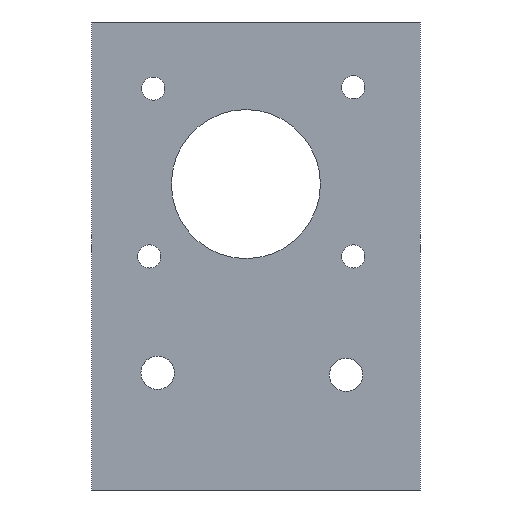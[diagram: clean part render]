
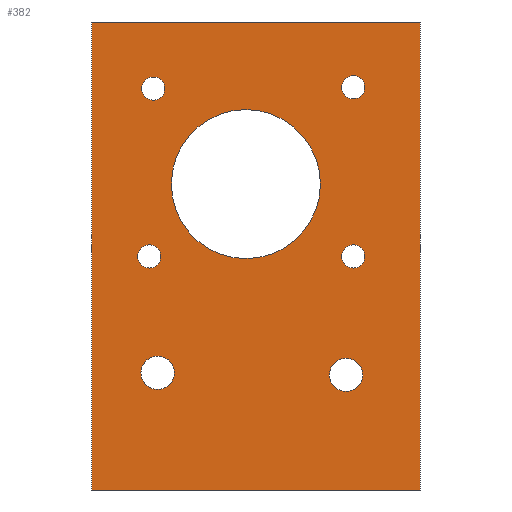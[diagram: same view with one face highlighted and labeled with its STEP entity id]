
A CAD part, front view. The second image highlights one B-rep face of the part: STEP entity #382.
In plain terms, the highlighted free-form (B-spline) face has degree [1, 1] with [2, 2] control points.
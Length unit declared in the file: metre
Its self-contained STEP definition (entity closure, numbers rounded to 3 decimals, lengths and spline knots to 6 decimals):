
#14=LINE('',#631,#26);
#18=LINE('',#642,#30);
#21=LINE('',#651,#33);
#23=LINE('',#717,#35);
#26=VECTOR('',#457,1.);
#30=VECTOR('',#461,1.);
#33=VECTOR('',#464,1.);
#35=VECTOR('',#490,1.);
#40=B_SPLINE_SURFACE_WITH_KNOTS('',1,1,((#728,#729),(#730,#731)),
 .PLANE_SURF.,.F.,.F.,.F.,(2,2),(2,2),(0.,1.),(0.,1.),.UNSPECIFIED.);
#128=ORIENTED_EDGE('',*,*,#194,.F.);
#129=ORIENTED_EDGE('',*,*,#198,.T.);
#130=ORIENTED_EDGE('',*,*,#201,.F.);
#131=ORIENTED_EDGE('',*,*,#215,.F.);
#132=ORIENTED_EDGE('',*,*,#168,.F.);
#133=ORIENTED_EDGE('',*,*,#212,.F.);
#134=ORIENTED_EDGE('',*,*,#172,.F.);
#135=ORIENTED_EDGE('',*,*,#210,.F.);
#136=ORIENTED_EDGE('',*,*,#176,.F.);
#137=ORIENTED_EDGE('',*,*,#208,.F.);
#138=ORIENTED_EDGE('',*,*,#180,.F.);
#139=ORIENTED_EDGE('',*,*,#206,.F.);
#140=ORIENTED_EDGE('',*,*,#204,.T.);
#141=ORIENTED_EDGE('',*,*,#184,.T.);
#142=ORIENTED_EDGE('',*,*,#188,.F.);
#143=ORIENTED_EDGE('',*,*,#202,.F.);
#144=ORIENTED_EDGE('',*,*,#164,.F.);
#145=ORIENTED_EDGE('',*,*,#216,.F.);
#164=EDGE_CURVE('',#218,#219,#254,.T.);
#168=EDGE_CURVE('',#222,#223,#256,.T.);
#172=EDGE_CURVE('',#226,#227,#258,.T.);
#176=EDGE_CURVE('',#230,#231,#260,.T.);
#180=EDGE_CURVE('',#234,#235,#262,.T.);
#184=EDGE_CURVE('',#238,#239,#264,.T.);
#188=EDGE_CURVE('',#242,#243,#266,.T.);
#194=EDGE_CURVE('',#248,#249,#14,.T.);
#198=EDGE_CURVE('',#248,#251,#18,.T.);
#201=EDGE_CURVE('',#253,#251,#21,.T.);
#202=EDGE_CURVE('',#243,#242,#268,.T.);
#204=EDGE_CURVE('',#239,#238,#270,.T.);
#206=EDGE_CURVE('',#235,#234,#272,.T.);
#208=EDGE_CURVE('',#231,#230,#274,.T.);
#210=EDGE_CURVE('',#227,#226,#276,.T.);
#212=EDGE_CURVE('',#223,#222,#278,.T.);
#215=EDGE_CURVE('',#249,#253,#23,.T.);
#216=EDGE_CURVE('',#219,#218,#280,.T.);
#218=VERTEX_POINT('',#505);
#219=VERTEX_POINT('',#506);
#222=VERTEX_POINT('',#523);
#223=VERTEX_POINT('',#524);
#226=VERTEX_POINT('',#541);
#227=VERTEX_POINT('',#542);
#230=VERTEX_POINT('',#559);
#231=VERTEX_POINT('',#560);
#234=VERTEX_POINT('',#577);
#235=VERTEX_POINT('',#578);
#238=VERTEX_POINT('',#595);
#239=VERTEX_POINT('',#596);
#242=VERTEX_POINT('',#613);
#243=VERTEX_POINT('',#614);
#248=VERTEX_POINT('',#630);
#249=VERTEX_POINT('',#632);
#251=VERTEX_POINT('',#641);
#253=VERTEX_POINT('',#650);
#254=CIRCLE('',#397,0.002533);
#256=CIRCLE('',#399,0.001759);
#258=CIRCLE('',#401,0.01133);
#260=CIRCLE('',#403,0.001759);
#262=CIRCLE('',#405,0.001759);
#264=CIRCLE('',#407,0.001759);
#266=CIRCLE('',#409,0.002527);
#268=CIRCLE('',#411,0.002527);
#270=CIRCLE('',#413,0.001759);
#272=CIRCLE('',#415,0.001759);
#274=CIRCLE('',#417,0.001759);
#276=CIRCLE('',#419,0.01133);
#278=CIRCLE('',#421,0.001759);
#280=CIRCLE('',#423,0.002533);
#300=EDGE_LOOP('',(#128,#129,#130,#131));
#301=EDGE_LOOP('',(#132,#133));
#302=EDGE_LOOP('',(#134,#135));
#303=EDGE_LOOP('',(#136,#137));
#304=EDGE_LOOP('',(#138,#139));
#305=EDGE_LOOP('',(#140,#141));
#306=EDGE_LOOP('',(#142,#143));
#307=EDGE_LOOP('',(#144,#145));
#334=FACE_BOUND('',#300,.T.);
#335=FACE_BOUND('',#301,.T.);
#336=FACE_BOUND('',#302,.T.);
#337=FACE_BOUND('',#303,.T.);
#338=FACE_BOUND('',#304,.T.);
#339=FACE_BOUND('',#305,.T.);
#340=FACE_BOUND('',#306,.T.);
#341=FACE_BOUND('',#307,.T.);
#382=ADVANCED_FACE('',(#334,#335,#336,#337,#338,#339,#340,#341),#40,.T.);
#397=AXIS2_PLACEMENT_3D('',#504,#427,#428);
#399=AXIS2_PLACEMENT_3D('',#522,#431,#432);
#401=AXIS2_PLACEMENT_3D('',#540,#435,#436);
#403=AXIS2_PLACEMENT_3D('',#558,#439,#440);
#405=AXIS2_PLACEMENT_3D('',#576,#443,#444);
#407=AXIS2_PLACEMENT_3D('',#594,#447,#448);
#409=AXIS2_PLACEMENT_3D('',#612,#451,#452);
#411=AXIS2_PLACEMENT_3D('',#660,#465,#466);
#413=AXIS2_PLACEMENT_3D('',#670,#469,#470);
#415=AXIS2_PLACEMENT_3D('',#680,#473,#474);
#417=AXIS2_PLACEMENT_3D('',#690,#477,#478);
#419=AXIS2_PLACEMENT_3D('',#700,#481,#482);
#421=AXIS2_PLACEMENT_3D('',#710,#485,#486);
#423=AXIS2_PLACEMENT_3D('',#726,#491,#492);
#427=DIRECTION('',(0.,-1.,0.));
#428=DIRECTION('',(0.,0.,-1.));
#431=DIRECTION('',(0.,-1.,0.));
#432=DIRECTION('',(0.,0.,-1.));
#435=DIRECTION('',(0.,-1.,0.));
#436=DIRECTION('',(0.,0.,-1.));
#439=DIRECTION('',(0.,-1.,0.));
#440=DIRECTION('',(0.,0.,-1.));
#443=DIRECTION('',(0.,-1.,0.));
#444=DIRECTION('',(0.,0.,-1.));
#447=DIRECTION('',(0.,1.,0.));
#448=DIRECTION('',(0.,0.,-1.));
#451=DIRECTION('',(0.,-1.,0.));
#452=DIRECTION('',(0.,0.,-1.));
#457=DIRECTION('',(0.,0.,1.));
#461=DIRECTION('',(1.,0.,0.));
#464=DIRECTION('',(0.,0.,-1.));
#465=DIRECTION('',(0.,-1.,0.));
#466=DIRECTION('',(0.,0.,-1.));
#469=DIRECTION('',(0.,1.,0.));
#470=DIRECTION('',(0.,0.,-1.));
#473=DIRECTION('',(0.,-1.,0.));
#474=DIRECTION('',(0.,0.,-1.));
#477=DIRECTION('',(0.,-1.,0.));
#478=DIRECTION('',(0.,0.,-1.));
#481=DIRECTION('',(0.,-1.,0.));
#482=DIRECTION('',(0.,0.,-1.));
#485=DIRECTION('',(0.,-1.,0.));
#486=DIRECTION('',(0.,0.,-1.));
#490=DIRECTION('',(1.,0.,0.));
#491=DIRECTION('',(0.,-1.,0.));
#492=DIRECTION('',(0.,0.,-1.));
#504=CARTESIAN_POINT('',(0.172276,-0.003,0.033213));
#505=CARTESIAN_POINT('',(0.172276,-0.003,0.035745));
#506=CARTESIAN_POINT('',(0.172276,-0.003,0.03068));
#522=CARTESIAN_POINT('',(0.202018,-0.003,0.076599));
#523=CARTESIAN_POINT('',(0.202018,-0.003,0.078358));
#524=CARTESIAN_POINT('',(0.202018,-0.003,0.07484));
#540=CARTESIAN_POINT('',(0.185698,-0.003,0.061893));
#541=CARTESIAN_POINT('',(0.185698,-0.003,0.073223));
#542=CARTESIAN_POINT('',(0.185698,-0.003,0.050563));
#558=CARTESIAN_POINT('',(0.202018,-0.003,0.050889));
#559=CARTESIAN_POINT('',(0.202018,-0.003,0.052648));
#560=CARTESIAN_POINT('',(0.202018,-0.003,0.04913));
#576=CARTESIAN_POINT('',(0.171018,-0.003,0.050889));
#577=CARTESIAN_POINT('',(0.171018,-0.003,0.052648));
#578=CARTESIAN_POINT('',(0.171018,-0.003,0.04913));
#594=CARTESIAN_POINT('',(0.171629,-0.003,0.076411));
#595=CARTESIAN_POINT('',(0.171629,-0.003,0.074652));
#596=CARTESIAN_POINT('',(0.171629,-0.003,0.07817));
#612=CARTESIAN_POINT('',(0.200915,-0.003,0.032889));
#613=CARTESIAN_POINT('',(0.200915,-0.003,0.035417));
#614=CARTESIAN_POINT('',(0.200915,-0.003,0.030362));
#630=CARTESIAN_POINT('',(0.162233,-0.003,0.01539));
#631=CARTESIAN_POINT('',(0.162233,-0.003,0.065281));
#632=CARTESIAN_POINT('',(0.162233,-0.003,0.086531));
#641=CARTESIAN_POINT('',(0.212233,-0.003,0.01539));
#642=CARTESIAN_POINT('',(0.187233,-0.003,0.01539));
#650=CARTESIAN_POINT('',(0.212233,-0.003,0.086531));
#651=CARTESIAN_POINT('',(0.212233,-0.003,0.065281));
#660=CARTESIAN_POINT('',(0.200915,-0.003,0.032889));
#670=CARTESIAN_POINT('',(0.171629,-0.003,0.076411));
#680=CARTESIAN_POINT('',(0.171018,-0.003,0.050889));
#690=CARTESIAN_POINT('',(0.202018,-0.003,0.050889));
#700=CARTESIAN_POINT('',(0.185698,-0.003,0.061893));
#710=CARTESIAN_POINT('',(0.202018,-0.003,0.076599));
#717=CARTESIAN_POINT('',(0.187233,-0.003,0.086531));
#726=CARTESIAN_POINT('',(0.172276,-0.003,0.033213));
#728=CARTESIAN_POINT('',(0.159733,-0.003,0.011833));
#729=CARTESIAN_POINT('',(0.159733,-0.003,0.090089));
#730=CARTESIAN_POINT('',(0.214733,-0.003,0.011833));
#731=CARTESIAN_POINT('',(0.214733,-0.003,0.090089));
